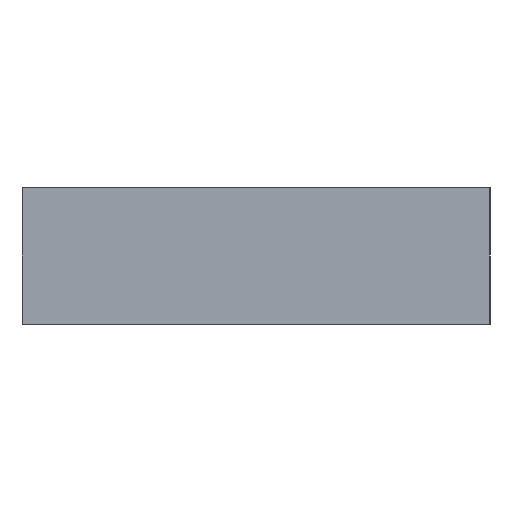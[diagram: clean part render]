
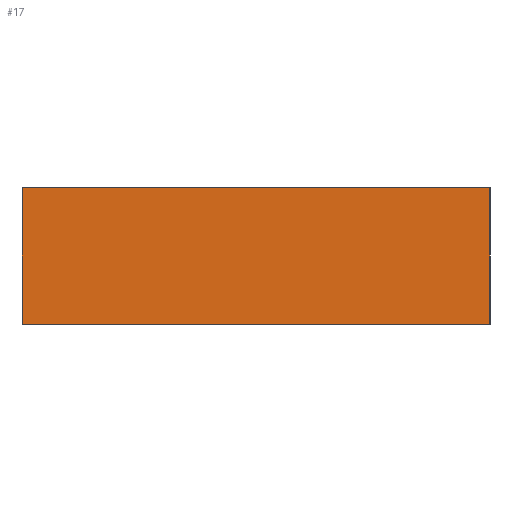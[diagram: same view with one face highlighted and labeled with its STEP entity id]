
A CAD part, left-side view. The second image highlights one B-rep face of the part: STEP entity #17.
In plain terms, the highlighted planar face has unit normal (-1, 0, 0).
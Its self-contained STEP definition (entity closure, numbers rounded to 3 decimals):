
#17 = ADVANCED_FACE('',(#18),#32,.F.);
#18 = FACE_BOUND('',#19,.F.);
#19 = EDGE_LOOP('',(#20,#55,#83,#111));
#20 = ORIENTED_EDGE('',*,*,#21,.F.);
#21 = EDGE_CURVE('',#22,#24,#26,.T.);
#22 = VERTEX_POINT('',#23);
#23 = CARTESIAN_POINT('',(0.,0.,0.));
#24 = VERTEX_POINT('',#25);
#25 = CARTESIAN_POINT('',(0.,0.,12.7));
#26 = SURFACE_CURVE('',#27,(#31,#43),.PCURVE_S1.);
#27 = LINE('',#28,#29);
#28 = CARTESIAN_POINT('',(0.,0.,0.));
#29 = VECTOR('',#30,1.);
#30 = DIRECTION('',(0.,0.,1.));
#31 = PCURVE('',#32,#37);
#32 = PLANE('',#33);
#33 = AXIS2_PLACEMENT_3D('',#34,#35,#36);
#34 = CARTESIAN_POINT('',(0.,0.,0.));
#35 = DIRECTION('',(1.,0.,0.));
#36 = DIRECTION('',(0.,0.,1.));
#37 = DEFINITIONAL_REPRESENTATION('',(#38),#42);
#38 = LINE('',#39,#40);
#39 = CARTESIAN_POINT('',(0.,0.));
#40 = VECTOR('',#41,1.);
#41 = DIRECTION('',(1.,0.));
#42 = ( GEOMETRIC_REPRESENTATION_CONTEXT(2) 
PARAMETRIC_REPRESENTATION_CONTEXT() REPRESENTATION_CONTEXT('2D SPACE',''
  ) );
#43 = PCURVE('',#44,#49);
#44 = PLANE('',#45);
#45 = AXIS2_PLACEMENT_3D('',#46,#47,#48);
#46 = CARTESIAN_POINT('',(0.,0.,0.));
#47 = DIRECTION('',(0.,1.,0.));
#48 = DIRECTION('',(0.,0.,1.));
#49 = DEFINITIONAL_REPRESENTATION('',(#50),#54);
#50 = LINE('',#51,#52);
#51 = CARTESIAN_POINT('',(0.,0.));
#52 = VECTOR('',#53,1.);
#53 = DIRECTION('',(1.,0.));
#54 = ( GEOMETRIC_REPRESENTATION_CONTEXT(2) 
PARAMETRIC_REPRESENTATION_CONTEXT() REPRESENTATION_CONTEXT('2D SPACE',''
  ) );
#55 = ORIENTED_EDGE('',*,*,#56,.T.);
#56 = EDGE_CURVE('',#22,#57,#59,.T.);
#57 = VERTEX_POINT('',#58);
#58 = CARTESIAN_POINT('',(0.,43.656,0.));
#59 = SURFACE_CURVE('',#60,(#64,#71),.PCURVE_S1.);
#60 = LINE('',#61,#62);
#61 = CARTESIAN_POINT('',(0.,0.,0.));
#62 = VECTOR('',#63,1.);
#63 = DIRECTION('',(0.,1.,0.));
#64 = PCURVE('',#32,#65);
#65 = DEFINITIONAL_REPRESENTATION('',(#66),#70);
#66 = LINE('',#67,#68);
#67 = CARTESIAN_POINT('',(0.,0.));
#68 = VECTOR('',#69,1.);
#69 = DIRECTION('',(0.,-1.));
#70 = ( GEOMETRIC_REPRESENTATION_CONTEXT(2) 
PARAMETRIC_REPRESENTATION_CONTEXT() REPRESENTATION_CONTEXT('2D SPACE',''
  ) );
#71 = PCURVE('',#72,#77);
#72 = PLANE('',#73);
#73 = AXIS2_PLACEMENT_3D('',#74,#75,#76);
#74 = CARTESIAN_POINT('',(0.,0.,0.));
#75 = DIRECTION('',(0.,0.,1.));
#76 = DIRECTION('',(1.,0.,0.));
#77 = DEFINITIONAL_REPRESENTATION('',(#78),#82);
#78 = LINE('',#79,#80);
#79 = CARTESIAN_POINT('',(0.,0.));
#80 = VECTOR('',#81,1.);
#81 = DIRECTION('',(0.,1.));
#82 = ( GEOMETRIC_REPRESENTATION_CONTEXT(2) 
PARAMETRIC_REPRESENTATION_CONTEXT() REPRESENTATION_CONTEXT('2D SPACE',''
  ) );
#83 = ORIENTED_EDGE('',*,*,#84,.T.);
#84 = EDGE_CURVE('',#57,#85,#87,.T.);
#85 = VERTEX_POINT('',#86);
#86 = CARTESIAN_POINT('',(0.,43.656,12.7));
#87 = SURFACE_CURVE('',#88,(#92,#99),.PCURVE_S1.);
#88 = LINE('',#89,#90);
#89 = CARTESIAN_POINT('',(0.,43.656,0.));
#90 = VECTOR('',#91,1.);
#91 = DIRECTION('',(0.,0.,1.));
#92 = PCURVE('',#32,#93);
#93 = DEFINITIONAL_REPRESENTATION('',(#94),#98);
#94 = LINE('',#95,#96);
#95 = CARTESIAN_POINT('',(0.,-43.656));
#96 = VECTOR('',#97,1.);
#97 = DIRECTION('',(1.,0.));
#98 = ( GEOMETRIC_REPRESENTATION_CONTEXT(2) 
PARAMETRIC_REPRESENTATION_CONTEXT() REPRESENTATION_CONTEXT('2D SPACE',''
  ) );
#99 = PCURVE('',#100,#105);
#100 = PLANE('',#101);
#101 = AXIS2_PLACEMENT_3D('',#102,#103,#104);
#102 = CARTESIAN_POINT('',(0.,43.656,0.));
#103 = DIRECTION('',(0.,1.,0.));
#104 = DIRECTION('',(0.,0.,1.));
#105 = DEFINITIONAL_REPRESENTATION('',(#106),#110);
#106 = LINE('',#107,#108);
#107 = CARTESIAN_POINT('',(0.,0.));
#108 = VECTOR('',#109,1.);
#109 = DIRECTION('',(1.,0.));
#110 = ( GEOMETRIC_REPRESENTATION_CONTEXT(2) 
PARAMETRIC_REPRESENTATION_CONTEXT() REPRESENTATION_CONTEXT('2D SPACE',''
  ) );
#111 = ORIENTED_EDGE('',*,*,#112,.F.);
#112 = EDGE_CURVE('',#24,#85,#113,.T.);
#113 = SURFACE_CURVE('',#114,(#118,#125),.PCURVE_S1.);
#114 = LINE('',#115,#116);
#115 = CARTESIAN_POINT('',(0.,0.,12.7));
#116 = VECTOR('',#117,1.);
#117 = DIRECTION('',(0.,1.,0.));
#118 = PCURVE('',#32,#119);
#119 = DEFINITIONAL_REPRESENTATION('',(#120),#124);
#120 = LINE('',#121,#122);
#121 = CARTESIAN_POINT('',(12.7,0.));
#122 = VECTOR('',#123,1.);
#123 = DIRECTION('',(0.,-1.));
#124 = ( GEOMETRIC_REPRESENTATION_CONTEXT(2) 
PARAMETRIC_REPRESENTATION_CONTEXT() REPRESENTATION_CONTEXT('2D SPACE',''
  ) );
#125 = PCURVE('',#126,#131);
#126 = PLANE('',#127);
#127 = AXIS2_PLACEMENT_3D('',#128,#129,#130);
#128 = CARTESIAN_POINT('',(0.,0.,12.7));
#129 = DIRECTION('',(0.,0.,1.));
#130 = DIRECTION('',(1.,0.,0.));
#131 = DEFINITIONAL_REPRESENTATION('',(#132),#136);
#132 = LINE('',#133,#134);
#133 = CARTESIAN_POINT('',(0.,0.));
#134 = VECTOR('',#135,1.);
#135 = DIRECTION('',(0.,1.));
#136 = ( GEOMETRIC_REPRESENTATION_CONTEXT(2) 
PARAMETRIC_REPRESENTATION_CONTEXT() REPRESENTATION_CONTEXT('2D SPACE',''
  ) );
